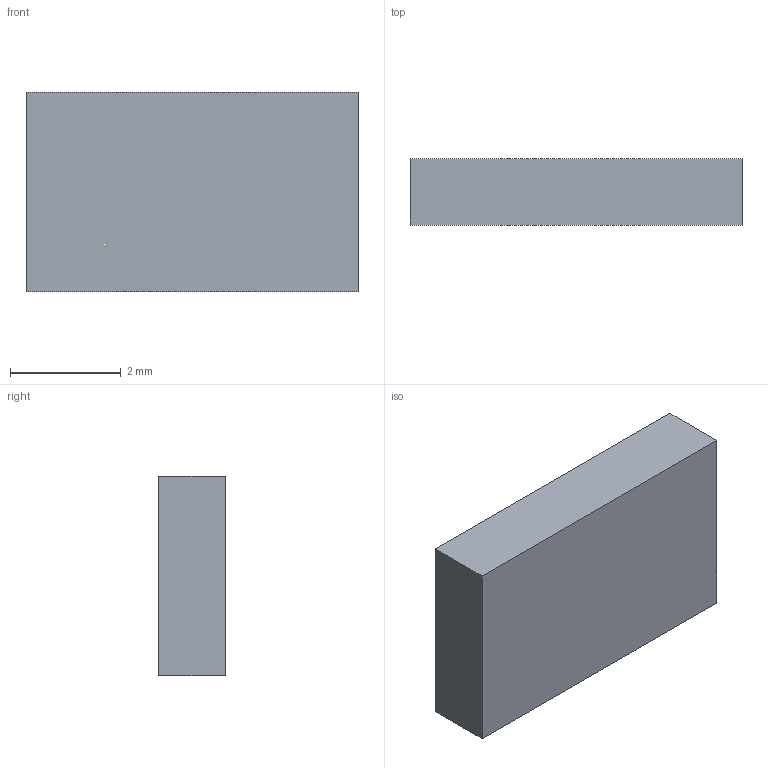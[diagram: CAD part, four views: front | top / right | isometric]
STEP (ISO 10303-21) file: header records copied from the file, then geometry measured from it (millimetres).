
FILE_DESCRIPTION(('Open CASCADE Model'),'2;1');
FILE_NAME('Open CASCADE Shape Model','2026-11-23T18:10:00',('Author'),( 'Open CASCADE'),'Open CASCADE STEP processor 8.0','build123d', 'Unknown');
FILE_SCHEMA(('AUTOMOTIVE_DESIGN { 1 0 10303 214 1 1 1 1 }'));
Length unit declared in the file: millimetre
Products named in the file (2): =>[0:1:1:2]; SOLID
Assembly tree (1 placements, depth 2):
  =>[0:1:1:2]
    SOLID
Bounding box: 6 x 1.2 x 3.6 mm (x, y, z)
Volume: 25.9 mm3; surface area: 66.2 mm2
Topology: 1 solids, 1 shells, 6 faces, 12 edges, 8 vertices
Faces by surface type: plane 6
Entity records: 340 total; most frequent: CARTESIAN_POINT 52, DIRECTION 52, LINE 36, VECTOR 36, ORIENTED_EDGE 24, PCURVE 24, DEFINITIONAL_REPRESENTATION 24, EDGE_CURVE 12
